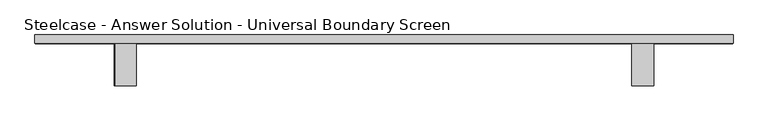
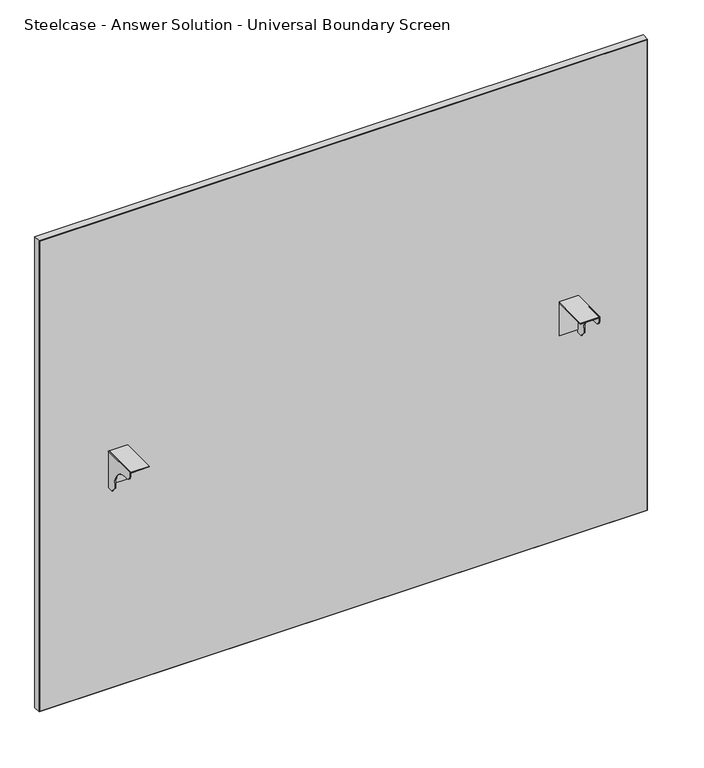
"""IFC4 building model written with IfcOpenShell, lengths in millimetres: furniture geometry, Steelcase - Answer Solution - Universal Boundary Screen : 54H x 66W."""

from ifc_helpers import new_model, si_unit, point, frame, frame_2d, origin, place, context, project, spatial, polyline, circle_curve, trimmed, segment, composite_curve, outline, extrude, source, transform, mapped, element, save


def steelcase_answer_solution_universal_boundary_screen_d92ce76b(model_context):
    return source(origin(), model_context, "Body", "SweptSolid", [
        extrude(outline(polyline([(-103.1670434, 689.3558876), (-103.1670434, 692.1499758), (-1.5668826, 692.1499758), (-1.5668826, 595.5029317), (-4.1079736, 595.5029317), (-4.1079736, 689.3558876), (-103.1670434, 689.3558876)])), frame((1124.4336711, 0.0, 0.0), z_axis=(1.0, 0.0, 0.0), x_axis=(0.0, 1.0, 0.0)), (0.0, 0.0, 1.0), 53.3444116),
        extrude(outline(composite_curve([segment(polyline([(-103.1670434, 679.2814802), (-103.1670434, 692.1499758), (-1.5668826, 692.1499758), (-1.5668826, 586.9634093), (-19.8232934, 586.9634093), (-19.8232934, 589.7574248), (-32.0458032, 601.9799346), (-32.0458032, 615.7814802)]), True, "CONTINUOUS"), segment(trimmed(circle_curve(frame_2d((-82.8458032, 615.7814802)), 50.8), [point((-32.0458032, 615.7814802))], [point((-82.8458032, 666.5814802))], True, "CARTESIAN"), True, "CONTINUOUS"), segment(polyline([(-82.8458032, 666.5814802), (-90.4670434, 666.5814802)]), True, "CONTINUOUS"), segment(trimmed(circle_curve(frame_2d((-90.4670434, 679.2814802)), 12.7), [point((-90.4670434, 666.5814802))], [point((-103.1670434, 679.2814802))], False, "CARTESIAN"), True, "CONTINUOUS")], self_intersect=False)), frame((1175.2328959, 0.0, 0.0), z_axis=(1.0, 0.0, 0.0), x_axis=(0.0, 1.0, 0.0)), (0.0, 0.0, 1.0), 2.5451868),
        extrude(outline(polyline([(-103.1670434, 689.3558876), (-103.1670434, 692.1499758), (-1.5668826, 692.1499758), (-1.5668826, 595.5029317), (-4.1079736, 595.5029317), (-4.1079736, 689.3558876), (-103.1670434, 689.3558876)])), frame((-115.0767306, 0.0, 0.0), z_axis=(1.0, 0.0, 0.0), x_axis=(0.0, 1.0, 0.0)), (0.0, 0.0, 1.0), 50.7992249),
        extrude(outline(composite_curve([segment(polyline([(-103.1670434, 679.2814802), (-103.1670434, 692.1499758), (-1.5668826, 692.1499758), (-1.5668826, 586.9634093), (-19.8232934, 586.9634093), (-19.8232934, 589.7574248), (-32.0458032, 601.9799346), (-32.0458032, 615.7814802)]), True, "CONTINUOUS"), segment(trimmed(circle_curve(frame_2d((-82.8458032, 615.7814802)), 50.8), [point((-32.0458032, 615.7814802))], [point((-82.8458032, 666.5814802))], True, "CARTESIAN"), True, "CONTINUOUS"), segment(polyline([(-82.8458032, 666.5814802), (-90.4670434, 666.5814802)]), True, "CONTINUOUS"), segment(trimmed(circle_curve(frame_2d((-90.4670434, 679.2814802)), 12.7), [point((-90.4670434, 666.5814802))], [point((-103.1670434, 679.2814802))], False, "CARTESIAN"), True, "CONTINUOUS")], self_intersect=False)), frame((-117.6219173, 0.0, 0.0), z_axis=(1.0, 0.0, 0.0), x_axis=(0.0, 1.0, 0.0)), (0.0, 0.0, 1.0), 2.5451868),
        extrude(outline(polyline([(-307.1293422, 18.9055112), (1367.2855076, 18.9055112), (1367.2855076, -1.5668826), (-307.1293422, -1.5668826), (-307.1293422, 18.9055112)])), frame((0.0, 0.0, 1.016), z_axis=(0.0, 0.0, 1.0), x_axis=(1.0, 0.0, 0.0)), (0.0, 0.0, 1.0), 1369.5914249),
        extrude(outline(polyline([(1371.6, 1368.2780827), (1371.6, -308.1219173), (0.0, -308.1219173), (0.0, 1368.2780827), (1371.6, 1368.2780827)]), holes=[polyline([(1370.6074249, 1367.2855076), (1.016, 1367.2855076), (1.016, -307.1293422), (1370.6074249, -307.1293422), (1370.6074249, 1367.2855076)])]), frame((0.0, -1.5668826, 0.0), z_axis=(0.0, 1.0, 0.0), x_axis=(0.0, 0.0, 1.0)), (0.0, 0.0, 1.0), 20.4723938),
    ])


if __name__ == "__main__":
    model = new_model("IFC4")
    model_context = context("Model", 3, world=origin())
    ifc_project = project(units=[si_unit("LENGTHUNIT", "METRE", prefix="MILLI")], contexts=[model_context])
    site = spatial("IfcSite", under=ifc_project)
    building = spatial("IfcBuilding", under=site)
    placement = place(None, origin())
    steelcase_answer_solution_universal_boundary_screen_shape = steelcase_answer_solution_universal_boundary_screen_d92ce76b(model_context)
    element("IfcFurniture", 1, ObjectType="Steelcase - Answer Solution - Universal Boundary Screen : 54H x 66W", at=placement, inside=building, context=model_context, shape_type="MappedRepresentation", body=[
        mapped(steelcase_answer_solution_universal_boundary_screen_shape, transform((0.0, 0.0, 0.0), x_axis=(1.0, 0.0, 0.0), y_axis=(0.0, 1.0, 0.0), z_axis=(0.0, 0.0, 1.0))),
    ])
    save(model, "model.ifc")
